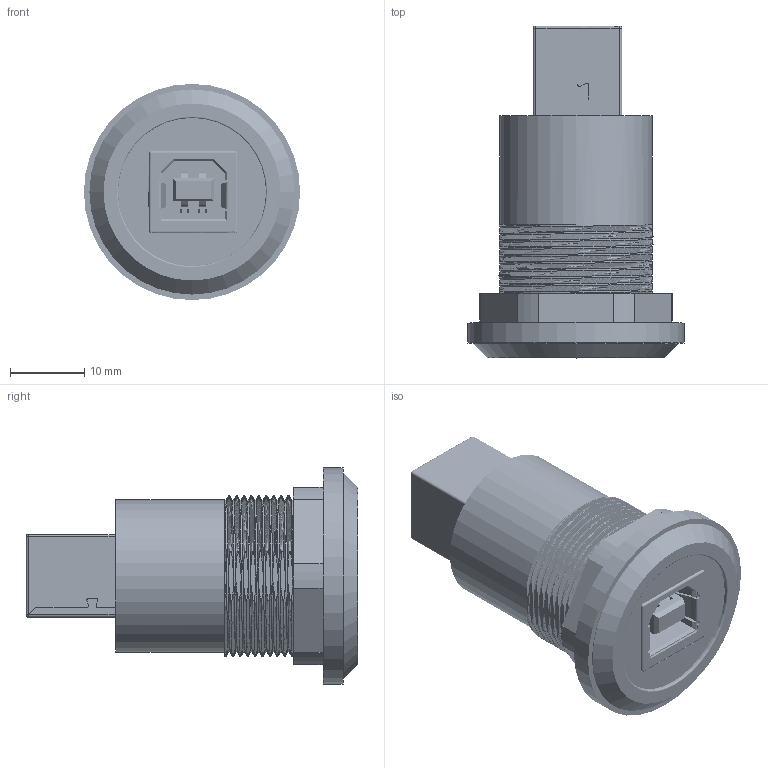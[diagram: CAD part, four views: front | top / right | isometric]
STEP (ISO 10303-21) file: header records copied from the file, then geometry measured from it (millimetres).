
FILE_DESCRIPTION(('FreeCAD Model'),'2;1');
FILE_NAME('Open CASCADE Shape Model','2024-03-21T10:44:52',(''),(''), 'Open CASCADE STEP processor 7.6','FreeCAD','Unknown');
FILE_SCHEMA(('AUTOMOTIVE_DESIGN { 1 0 10303 214 1 1 1 1 }'));
Length unit declared in the file: millimetre
Products named in the file (6): EX_49192_3D_Konst; 49192_Coupling_nut; USB-B_female_frontside; USB-B_female_backside; 49192_Rubber O-ring; 49192_Connector
Assembly tree (5 placements, depth 2):
  EX_49192_3D_Konst
    49192_Coupling_nut
    USB-B_female_frontside
    USB-B_female_backside
    49192_Rubber O-ring
    49192_Connector
Bounding box: 29.2 x 44.8 x 29.2 mm (x, y, z)
Volume: 6388.7 mm3; surface area: 15582.4 mm2
Topology: 55 solids, 65 shells, 1306 faces, 4946 edges, 4989 vertices
Faces by surface type: plane 927, cylinder 287, bspline 81, sphere 8, torus 2, cone 1
Full cylindrical faces by diameter (mm): 18.6 x3, 20 x1, 20.6 x16, 25.6 x1, 27.7 x1, 29.2 x1
Entity records: 283202 total; most frequent: CARTESIAN_POINT 240116, DIRECTION 7588, ORIENTED_EDGE 7164, LINE 3680, VECTOR 3680, EDGE_CURVE 3586, VERTEX_POINT 2355, AXIS2_PLACEMENT_3D 1954
